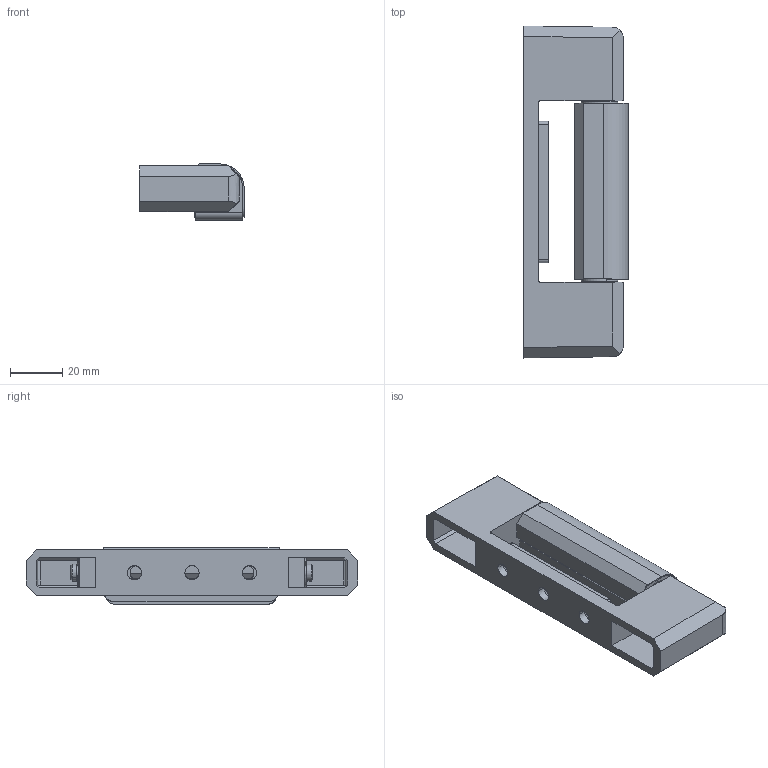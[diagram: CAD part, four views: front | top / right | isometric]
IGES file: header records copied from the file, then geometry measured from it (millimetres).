
Start section: SolidWorks IGES FILE using analytic representation for surfaces
Global section: file name: E:\妙子\仕事\solidworks\ヒンジ20130815\EFH-100S\EFH-100S-4\EFH-100S-4.IGS; native system: SolidWorks 2003 by SolidWorks Corporation; preprocessor: Version 5.3; author: 妙子,,; organization: 11; date: 130815.134553; units: millimetre
Bounding box: 40 x 127 x 21.5 mm (x, y, z)
Surface area: 32445.2 mm2 (no closed solid volume)
Topology: 0 solids, 0 shells, 266 faces, 3788 edges, 3788 vertices
Faces by surface type: bspline 142, revolution 124
